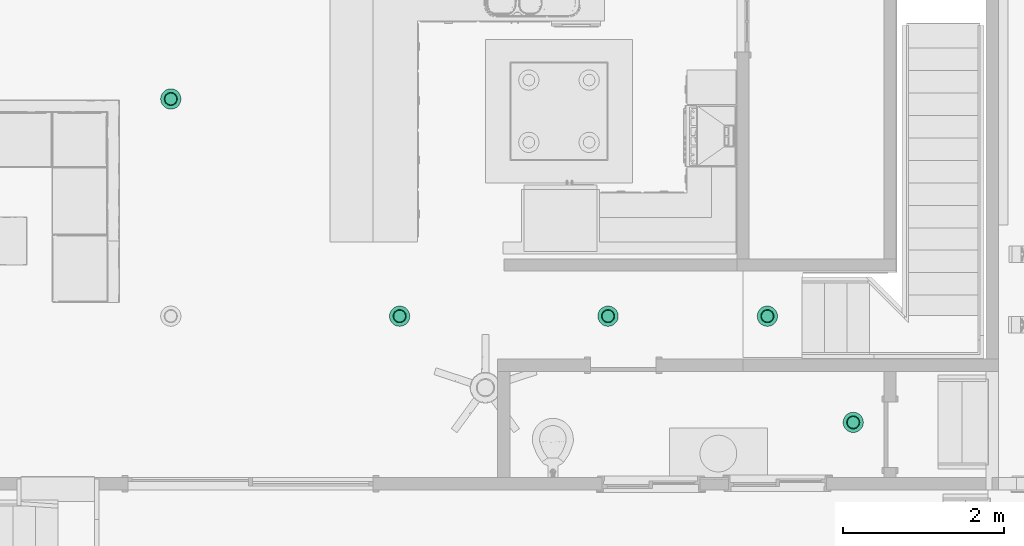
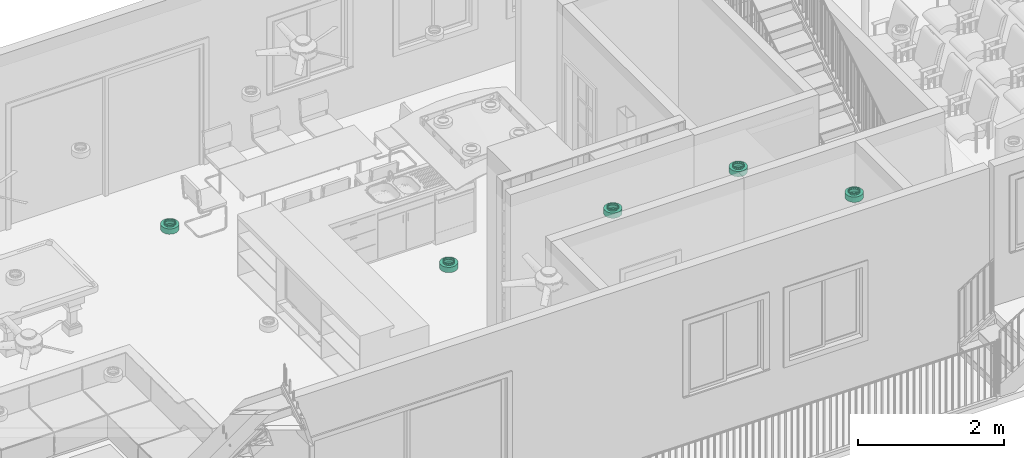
# One storey, part 14 of 21: 5 flow terminals.
"""IFC2X3 building model written with IfcOpenShell, lengths in feet."""

from ifc_helpers import new_model, entity, si_unit, converted_unit, derived_unit, direction, frame, origin, place, context, subcontext, project, spatial, faceted_brep, source, transform, mapped, material, material_list, type_object, type_shapes, element, save


model = new_model("IFC2X3")

# Units and contexts
model_context = context("Model", 3, precision=0.0001, world=origin(), true_north=direction((6.12303176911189e-17, 1.0)))
body_context = subcontext(model_context, "Body", "Model", "MODEL_VIEW")
ifc_project = project(units=[converted_unit("LENGTHUNIT", "FOOT", entity("IfcRatioMeasure", 0.3048), si_unit("LENGTHUNIT", "METRE"), dimensions=[1, 0, 0, 0, 0, 0, 0]), converted_unit("AREAUNIT", "SQUARE FOOT", entity("IfcRatioMeasure", 0.09290304), si_unit("AREAUNIT", "SQUARE_METRE"), dimensions=[2, 0, 0, 0, 0, 0, 0]), converted_unit("VOLUMEUNIT", "CUBIC FOOT", entity("IfcRatioMeasure", 0.028316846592), si_unit("VOLUMEUNIT", "CUBIC_METRE"), dimensions=[3, 0, 0, 0, 0, 0, 0]), converted_unit("PLANEANGLEUNIT", "DEGREE", entity("IfcRatioMeasure", 0.0174532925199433), si_unit("PLANEANGLEUNIT", "RADIAN"), dimensions=[0, 0, 0, 0, 0, 0, 0]), si_unit("MASSUNIT", "GRAM", prefix="KILO"), derived_unit("MASSDENSITYUNIT", [(si_unit("MASSUNIT", "GRAM", prefix="KILO"), 1), (si_unit("LENGTHUNIT", "METRE"), -3)]), si_unit("TIMEUNIT", "SECOND"), si_unit("FREQUENCYUNIT", "HERTZ"), si_unit("THERMODYNAMICTEMPERATUREUNIT", "DEGREE_CELSIUS"), derived_unit("THERMALTRANSMITTANCEUNIT", [(si_unit("MASSUNIT", "GRAM", prefix="KILO"), 1), (si_unit("THERMODYNAMICTEMPERATUREUNIT", "KELVIN"), -1), (si_unit("TIMEUNIT", "SECOND"), -3)]), derived_unit("VOLUMETRICFLOWRATEUNIT", [(si_unit("LENGTHUNIT", "METRE"), 3), (si_unit("TIMEUNIT", "SECOND"), -1)]), si_unit("ELECTRICCURRENTUNIT", "AMPERE"), si_unit("ELECTRICVOLTAGEUNIT", "VOLT"), si_unit("POWERUNIT", "WATT"), si_unit("FORCEUNIT", "NEWTON"), si_unit("ILLUMINANCEUNIT", "LUX"), si_unit("LUMINOUSFLUXUNIT", "LUMEN"), si_unit("LUMINOUSINTENSITYUNIT", "CANDELA"), derived_unit("USERDEFINED", [(si_unit("MASSUNIT", "GRAM", prefix="KILO"), -1), (si_unit("LENGTHUNIT", "METRE"), -2), (si_unit("TIMEUNIT", "SECOND"), 3), (si_unit("LUMINOUSFLUXUNIT", "LUMEN"), 1)]), derived_unit("LINEARVELOCITYUNIT", [(si_unit("LENGTHUNIT", "METRE"), 1), (si_unit("TIMEUNIT", "SECOND"), -1)]), si_unit("PRESSUREUNIT", "PASCAL"), derived_unit("USERDEFINED", [(si_unit("LENGTHUNIT", "METRE"), -2), (si_unit("MASSUNIT", "GRAM", prefix="KILO"), 1), (si_unit("TIMEUNIT", "SECOND"), -2)])], contexts=[model_context])

# Site, building, storey
site_placement = place(None, origin())
site = spatial("IfcSite", under=ifc_project, at=site_placement, Name="表面", CompositionType="ELEMENT")
building_placement = place(site_placement, origin())
building = spatial("IfcBuilding", under=site, at=building_placement, CompositionType="ELEMENT")
storey_placement = place(building_placement, origin())
storey = spatial("IfcBuildingStorey", under=building, at=storey_placement, Name="Level 1", CompositionType="ELEMENT", Elevation=0.0)

# Flow terminals
ifc_material_1 = material(Name="Metal - Paint Finish - Dark Gray, Matte")
ifc_material_2 = material(Name="Glass - White, High Luminance")
ifc_material_list_1 = material_list([ifc_material_1, ifc_material_2])
ifc_material_list_2 = material_list([ifc_material_1, ifc_material_2])
light_fixture_type = type_object("IfcLightFixtureType", Name="100W - 120V", PredefinedType="NOTDEFINED", material=ifc_material_list_2)
shared_shape = source(origin(), body_context, "Body", "Brep", [
    faceted_brep([(0.557291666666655, 0.187326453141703, 0.374999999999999), (0.598651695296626, 0.245098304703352, 0.374999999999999), (0.558098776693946, 0.218001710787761, 0.374999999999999), (0.629345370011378, 0.247786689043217, 0.374999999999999), (0.517545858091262, 0.190905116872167, 0.374999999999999), (0.468904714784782, 0.155156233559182, 0.374999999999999), (0.625748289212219, 0.285651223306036, 0.374999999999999), (0.65284488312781, 0.326204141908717, 0.374999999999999), (0.676375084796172, 0.329244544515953, 0.374999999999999), (0.6623599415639, 0.374039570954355, 0.374999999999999), (0.671874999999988, 0.42187499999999, 0.374999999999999), (0.692708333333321, 0.421874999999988, 0.374999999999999), (0.676375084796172, 0.514505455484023, 0.374999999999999), (0.662359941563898, 0.469710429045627, 0.374999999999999), (0.652844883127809, 0.517545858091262, 0.374999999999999), (0.629345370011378, 0.595963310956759, 0.374999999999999), (0.625748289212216, 0.558098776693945, 0.374999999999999), (0.598651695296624, 0.598651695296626, 0.374999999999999), (0.557291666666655, 0.656423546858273, 0.374999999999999), (0.55809877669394, 0.625748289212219, 0.374999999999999), (0.517545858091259, 0.65284488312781, 0.374999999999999), (0.468904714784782, 0.688593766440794, 0.374999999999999), (0.469710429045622, 0.662359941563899, 0.374999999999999), (0.421874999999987, 0.671874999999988, 0.374999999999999), (0.374845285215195, 0.688593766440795, 0.374999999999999), (0.374039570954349, 0.662359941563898, 0.374999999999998), (0.326204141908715, 0.652844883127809, 0.374999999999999), (0.286458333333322, 0.656423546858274, 0.374999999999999), (0.285651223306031, 0.625748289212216, 0.374999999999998), (0.245098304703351, 0.598651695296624, 0.374999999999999), (0.214404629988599, 0.59596331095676, 0.374999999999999), (0.218001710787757, 0.558098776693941, 0.374999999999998), (0.190905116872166, 0.51754585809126, 0.374999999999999), (0.167374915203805, 0.514505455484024, 0.374999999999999), (0.181390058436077, 0.469710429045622, 0.374999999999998), (0.171874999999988, 0.421874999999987, 0.374999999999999), (0.151041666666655, 0.421874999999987, 0.374999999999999), (0.167374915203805, 0.329244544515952, 0.374999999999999), (0.181390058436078, 0.374039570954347, 0.374999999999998), (0.190905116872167, 0.326204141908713, 0.374999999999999), (0.214404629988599, 0.247786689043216, 0.374999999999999), (0.218001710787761, 0.28565122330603, 0.374999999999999), (0.245098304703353, 0.245098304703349, 0.374999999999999), (0.286458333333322, 0.187326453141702, 0.374999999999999), (0.285651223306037, 0.218001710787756, 0.374999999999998), (0.326204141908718, 0.190905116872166, 0.374999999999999), (0.374845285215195, 0.155156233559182, 0.374999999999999), (0.42187499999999, 0.171874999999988, 0.374999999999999), (0.374039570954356, 0.181390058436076, 0.374999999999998), (0.469710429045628, 0.181390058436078, 0.374999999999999), (0.557291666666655, 0.656423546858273, 0.291666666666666), (0.598651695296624, 0.598651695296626, 0.291666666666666), (0.55809877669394, 0.625748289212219, 0.291666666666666), (0.629345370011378, 0.595963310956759, 0.291666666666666), (0.517545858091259, 0.65284488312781, 0.291666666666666), (0.468904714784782, 0.688593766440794, 0.291666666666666), (0.625748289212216, 0.558098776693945, 0.291666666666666), (0.652844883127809, 0.517545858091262, 0.291666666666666), (0.676375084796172, 0.514505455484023, 0.291666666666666), (0.662359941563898, 0.469710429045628, 0.291666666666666), (0.671874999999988, 0.42187499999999, 0.291666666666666), (0.692708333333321, 0.421874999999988, 0.291666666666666), (0.676375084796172, 0.329244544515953, 0.291666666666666), (0.659760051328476, 0.36096904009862, 0.291666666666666), (0.65284488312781, 0.326204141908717, 0.291666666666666), (0.629345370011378, 0.247786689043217, 0.291666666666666), (0.625748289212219, 0.285651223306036, 0.291666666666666), (0.598651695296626, 0.245098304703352, 0.291666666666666), (0.557291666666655, 0.187326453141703, 0.291666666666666), (0.558098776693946, 0.218001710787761, 0.291666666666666), (0.517545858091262, 0.190905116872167, 0.291666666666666), (0.468904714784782, 0.155156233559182, 0.291666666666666), (0.469710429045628, 0.181390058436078, 0.291666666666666), (0.42187499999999, 0.171874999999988, 0.291666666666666), (0.374845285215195, 0.155156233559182, 0.291666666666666), (0.374039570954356, 0.181390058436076, 0.291666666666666), (0.326204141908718, 0.190905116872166, 0.291666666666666), (0.286458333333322, 0.187326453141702, 0.291666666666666), (0.285651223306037, 0.218001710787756, 0.291666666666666), (0.245098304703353, 0.245098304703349, 0.291666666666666), (0.214404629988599, 0.247786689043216, 0.291666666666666), (0.218001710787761, 0.28565122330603, 0.291666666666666), (0.190905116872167, 0.326204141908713, 0.291666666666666), (0.167374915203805, 0.329244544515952, 0.291666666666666), (0.181390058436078, 0.374039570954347, 0.291666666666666), (0.171874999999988, 0.421874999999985, 0.291666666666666), (0.151041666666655, 0.421874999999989, 0.291666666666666), (0.167374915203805, 0.514505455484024, 0.291666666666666), (0.183989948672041, 0.482780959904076, 0.291666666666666), (0.190905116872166, 0.51754585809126, 0.291666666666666), (0.214404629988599, 0.59596331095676, 0.291666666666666), (0.218001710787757, 0.558098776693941, 0.291666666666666), (0.245098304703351, 0.598651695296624, 0.291666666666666), (0.286458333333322, 0.656423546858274, 0.291666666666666), (0.285651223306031, 0.625748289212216, 0.291666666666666), (0.326204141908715, 0.652844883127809, 0.291666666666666), (0.374845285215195, 0.688593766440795, 0.291666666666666), (0.421874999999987, 0.671874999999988, 0.291666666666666), (0.374039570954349, 0.662359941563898, 0.291666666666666), (0.469710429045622, 0.662359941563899, 0.291666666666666)], [[[0, 1, 2]], [[1, 0, 3]], [[0, 2, 4]], [[4, 5, 0]], [[3, 6, 1]], [[3, 7, 6]], [[7, 3, 8]], [[8, 9, 7]], [[8, 10, 9]], [[10, 8, 11]], [[10, 11, 12]], [[12, 13, 10]], [[12, 14, 13]], [[15, 14, 12]], [[15, 16, 14]], [[15, 17, 16]], [[18, 17, 15]], [[18, 19, 17]], [[18, 20, 19]], [[21, 20, 18]], [[21, 22, 20]], [[21, 23, 22]], [[24, 23, 21]], [[24, 25, 23]], [[24, 26, 25]], [[27, 26, 24]], [[27, 28, 26]], [[27, 29, 28]], [[29, 27, 30]], [[30, 31, 29]], [[30, 32, 31]], [[32, 30, 33]], [[33, 34, 32]], [[33, 35, 34]], [[36, 35, 33]], [[37, 35, 36]], [[37, 38, 35]], [[37, 39, 38]], [[39, 37, 40]], [[40, 41, 39]], [[40, 42, 41]], [[42, 40, 43]], [[43, 44, 42]], [[43, 45, 44]], [[45, 43, 46]], [[47, 46, 5]], [[46, 47, 48]], [[46, 48, 45]], [[5, 4, 49]], [[5, 49, 47]], [[50, 51, 52]], [[51, 50, 53]], [[50, 52, 54]], [[54, 55, 50]], [[53, 56, 51]], [[53, 57, 56]], [[57, 53, 58]], [[58, 59, 57]], [[58, 60, 59]], [[60, 58, 61]], [[60, 61, 62]], [[62, 63, 60]], [[62, 64, 63]], [[65, 64, 62]], [[65, 66, 64]], [[65, 67, 66]], [[68, 67, 65]], [[68, 69, 67]], [[68, 70, 69]], [[71, 70, 68]], [[71, 72, 70]], [[71, 73, 72]], [[74, 73, 71]], [[74, 75, 73]], [[74, 76, 75]], [[77, 76, 74]], [[77, 78, 76]], [[77, 79, 78]], [[79, 77, 80]], [[80, 81, 79]], [[80, 82, 81]], [[82, 80, 83]], [[83, 84, 82]], [[83, 85, 84]], [[86, 85, 83]], [[87, 85, 86]], [[87, 88, 85]], [[87, 89, 88]], [[89, 87, 90]], [[90, 91, 89]], [[90, 92, 91]], [[92, 90, 93]], [[93, 94, 92]], [[93, 95, 94]], [[95, 93, 96]], [[97, 96, 55]], [[96, 97, 98]], [[96, 98, 95]], [[55, 54, 99]], [[55, 99, 97]], [[37, 36, 86, 83]], [[43, 40, 80, 77]], [[83, 80, 40, 37]], [[77, 74, 46, 43]], [[74, 71, 5, 46]], [[0, 5, 71, 68]], [[8, 3, 65, 62]], [[68, 65, 3, 0]], [[62, 61, 11, 8]], [[12, 11, 61, 58]], [[18, 15, 53, 50]], [[58, 53, 15, 12]], [[50, 55, 21, 18]], [[55, 96, 24, 21]], [[27, 24, 96, 93]], [[87, 33, 30, 90]], [[90, 30, 27, 93]], [[33, 87, 86, 36]], [[34, 35, 85, 88, 89, 32]], [[89, 91, 92, 29, 31, 32]], [[59, 60, 10, 13, 14, 57]], [[92, 94, 95, 26, 28, 29]], [[23, 25, 26, 95, 98, 97]], [[97, 99, 54, 20, 22, 23]], [[16, 17, 51, 56, 57, 14]], [[54, 52, 51, 17, 19, 20]], [[9, 10, 60, 63, 64, 7]], [[64, 66, 67, 1, 6, 7]], [[84, 85, 35, 38, 39, 82]], [[67, 69, 70, 4, 2, 1]], [[47, 49, 4, 70, 72, 73]], [[73, 75, 76, 45, 48, 47]], [[41, 42, 79, 81, 82, 39]], [[76, 78, 79, 42, 44, 45]]]),
    faceted_brep([(0.671874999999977, 0.421874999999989, 0.291666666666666), (0.838541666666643, 0.421874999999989, 0.291666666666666), (0.81814854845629, 0.550632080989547, 0.291666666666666), (0.818148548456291, 0.293117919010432, 0.291666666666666), (0.659760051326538, 0.360969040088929, 0.291666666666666), (0.662359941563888, 0.469710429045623, 0.291666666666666), (0.6528448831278, 0.326204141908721, 0.291666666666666), (0.758965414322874, 0.176964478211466, 0.291666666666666), (0.625748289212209, 0.28565122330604, 0.291666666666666), (0.598651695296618, 0.24509830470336, 0.291666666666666), (0.666785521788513, 0.084784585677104, 0.291666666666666), (0.558098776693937, 0.218001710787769, 0.291666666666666), (0.517545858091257, 0.190905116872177, 0.291666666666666), (0.550632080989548, 0.025601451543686, 0.291666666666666), (0.469710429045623, 0.181390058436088, 0.291666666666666), (0.421874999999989, 0.171874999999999, 0.291666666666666), (0.42187499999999, 0.00520833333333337, 0.291666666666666), (0.293117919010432, 0.0256014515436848, 0.291666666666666), (0.374039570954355, 0.181390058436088, 0.291666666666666), (0.326204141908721, 0.190905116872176, 0.291666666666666), (0.176964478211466, 0.0847845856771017, 0.291666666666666), (0.285651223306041, 0.218001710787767, 0.291666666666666), (0.24509830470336, 0.245098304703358, 0.291666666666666), (0.0847845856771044, 0.176964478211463, 0.291666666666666), (0.218001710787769, 0.285651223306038, 0.291666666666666), (0.190905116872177, 0.326204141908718, 0.291666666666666), (0.0256014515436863, 0.293117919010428, 0.291666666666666), (0.181390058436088, 0.374039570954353, 0.291666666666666), (0.171874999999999, 0.421874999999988, 0.291666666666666), (0.00520833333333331, 0.421874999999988, 0.291666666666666), (0.0256014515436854, 0.550632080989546, 0.291666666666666), (0.183989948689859, 0.482780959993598, 0.291666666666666), (0.190905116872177, 0.517545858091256, 0.291666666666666), (0.0847845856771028, 0.666785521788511, 0.291666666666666), (0.218001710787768, 0.558098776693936, 0.291666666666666), (0.245098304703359, 0.598651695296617, 0.291666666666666), (0.176964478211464, 0.758965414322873, 0.291666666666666), (0.285651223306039, 0.625748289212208, 0.291666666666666), (0.32620414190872, 0.652844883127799, 0.291666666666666), (0.29311791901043, 0.81814854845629, 0.291666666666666), (0.374039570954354, 0.662359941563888, 0.291666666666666), (0.421874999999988, 0.671874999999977, 0.291666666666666), (0.421874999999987, 0.838541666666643, 0.291666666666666), (0.550632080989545, 0.818148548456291, 0.291666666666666), (0.469710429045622, 0.662359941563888, 0.291666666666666), (0.517545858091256, 0.6528448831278, 0.291666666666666), (0.666785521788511, 0.758965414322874, 0.291666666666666), (0.558098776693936, 0.625748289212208, 0.291666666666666), (0.598651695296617, 0.598651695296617, 0.291666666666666), (0.758965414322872, 0.666785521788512, 0.291666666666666), (0.625748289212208, 0.558098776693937, 0.291666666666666), (0.652844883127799, 0.517545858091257, 0.291666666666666), (0.0256014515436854, 0.550632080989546, 0.0), (0.00520833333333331, 0.421874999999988, 0.0), (0.0847845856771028, 0.666785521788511, 0.0), (0.176964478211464, 0.758965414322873, 0.0), (0.29311791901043, 0.818148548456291, 0.0), (0.421874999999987, 0.838541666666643, 0.0), (0.550632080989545, 0.818148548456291, 0.0), (0.666785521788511, 0.758965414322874, 0.0), (0.758965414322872, 0.666785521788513, 0.0), (0.81814854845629, 0.550632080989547, 0.0), (0.838541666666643, 0.42187499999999, 0.0), (0.818148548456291, 0.293117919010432, 0.0), (0.666785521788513, 0.0847845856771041, 0.0), (0.550632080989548, 0.025601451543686, 0.0), (0.42187499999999, 0.00520833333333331, 0.0), (0.758965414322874, 0.176964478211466, 0.0), (0.293117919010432, 0.0256014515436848, 0.0), (0.176964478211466, 0.0847845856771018, 0.0), (0.0847845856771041, 0.176964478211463, 0.0), (0.025601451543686, 0.293117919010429, 0.0), (0.421874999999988, 0.421874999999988, 0.0), (0.808241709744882, 0.547413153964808, 0.0104166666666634), (0.421874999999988, 0.421874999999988, 0.0104166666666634), (0.828124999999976, 0.421874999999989, 0.0104166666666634), (0.7505381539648, 0.660662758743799, 0.0104166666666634), (0.660662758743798, 0.750538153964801, 0.0104166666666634), (0.547413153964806, 0.808241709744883, 0.0104166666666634), (0.421874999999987, 0.828124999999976, 0.0104166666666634), (0.296336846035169, 0.808241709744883, 0.0104166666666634), (0.183087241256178, 0.750538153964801, 0.0104166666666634), (0.0932118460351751, 0.660662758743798, 0.0104166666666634), (0.0355082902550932, 0.547413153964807, 0.0104166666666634), (0.0156249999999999, 0.421874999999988, 0.0104166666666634), (0.0355082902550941, 0.296336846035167, 0.0104166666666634), (0.0932118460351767, 0.183087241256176, 0.0104166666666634), (0.18308724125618, 0.093211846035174, 0.0104166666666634), (0.296336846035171, 0.0355082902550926, 0.0104166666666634), (0.42187499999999, 0.0156249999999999, 0.0104166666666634), (0.547413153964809, 0.0355082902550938, 0.0104166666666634), (0.6606627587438, 0.0932118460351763, 0.0104166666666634), (0.750538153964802, 0.183087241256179, 0.0104166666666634), (0.808241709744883, 0.296336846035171, 0.0104166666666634), (0.0355082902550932, 0.547413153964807, 0.281249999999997), (0.0156249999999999, 0.421874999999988, 0.281249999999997), (0.0932118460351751, 0.660662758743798, 0.281249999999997), (0.183087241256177, 0.750538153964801, 0.281249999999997), (0.296336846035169, 0.808241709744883, 0.281249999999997), (0.421874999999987, 0.828124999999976, 0.281249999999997), (0.660662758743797, 0.750538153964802, 0.281249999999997), (0.547413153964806, 0.808241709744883, 0.281249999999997), (0.808241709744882, 0.547413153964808, 0.281249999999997), (0.7505381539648, 0.660662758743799, 0.281249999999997), (0.828124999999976, 0.42187499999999, 0.281249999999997), (0.808241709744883, 0.296336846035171, 0.281249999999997), (0.547413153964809, 0.0355082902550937, 0.281249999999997), (0.6606627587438, 0.0932118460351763, 0.281249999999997), (0.42187499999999, 0.0156249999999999, 0.281249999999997), (0.750538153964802, 0.183087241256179, 0.281249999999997), (0.183087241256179, 0.0932118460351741, 0.281249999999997), (0.296336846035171, 0.0355082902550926, 0.281249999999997), (0.0355082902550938, 0.296336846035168, 0.281249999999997), (0.0932118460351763, 0.183087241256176, 0.281249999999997), (0.66145833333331, 0.421874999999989, 0.281249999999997), (0.650878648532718, 0.475062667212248, 0.281249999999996), (0.643221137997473, 0.513559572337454, 0.281249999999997), (0.650878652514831, 0.368687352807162, 0.281249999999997), (0.643221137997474, 0.330190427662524, 0.281249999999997), (0.617253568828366, 0.291327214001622, 0.281249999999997), (0.591285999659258, 0.25246400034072, 0.281249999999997), (0.552422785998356, 0.226496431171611, 0.281249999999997), (0.513559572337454, 0.200528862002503, 0.281249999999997), (0.467717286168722, 0.191410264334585, 0.281249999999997), (0.421874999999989, 0.182291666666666, 0.281249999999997), (0.376032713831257, 0.191410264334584, 0.281249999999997), (0.330190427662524, 0.200528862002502, 0.281249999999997), (0.291327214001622, 0.22649643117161, 0.281249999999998), (0.25246400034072, 0.252464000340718, 0.281249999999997), (0.226496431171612, 0.29132721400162, 0.281249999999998), (0.200528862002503, 0.330190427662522, 0.281249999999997), (0.191410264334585, 0.376032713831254, 0.281249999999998), (0.182291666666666, 0.421874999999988, 0.281249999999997), (0.192871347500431, 0.47506264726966, 0.281249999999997), (0.200528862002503, 0.513559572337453, 0.281249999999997), (0.226496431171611, 0.552422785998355, 0.281249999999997), (0.252464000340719, 0.591285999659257, 0.281249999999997), (0.291327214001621, 0.617253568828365, 0.281249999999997), (0.330190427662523, 0.643221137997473, 0.281249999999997), (0.376032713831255, 0.652339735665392, 0.281249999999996), (0.421874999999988, 0.66145833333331, 0.281249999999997), (0.46771728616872, 0.652339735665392, 0.281249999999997), (0.513559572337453, 0.643221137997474, 0.281249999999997), (0.591285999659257, 0.591285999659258, 0.281249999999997), (0.552422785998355, 0.617253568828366, 0.281249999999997), (0.617253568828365, 0.552422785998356, 0.281249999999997), (0.191410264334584, 0.467717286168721, 0.375), (0.182291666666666, 0.421874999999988, 0.375), (0.200528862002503, 0.513559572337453, 0.375), (0.252464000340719, 0.591285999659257, 0.375), (0.226496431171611, 0.552422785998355, 0.375), (0.330190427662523, 0.643221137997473, 0.375), (0.291327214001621, 0.617253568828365, 0.375), (0.421874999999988, 0.66145833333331, 0.375), (0.376032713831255, 0.652339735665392, 0.375), (0.552422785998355, 0.617253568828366, 0.375), (0.513559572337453, 0.643221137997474, 0.375), (0.591285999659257, 0.591285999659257, 0.375), (0.643221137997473, 0.513559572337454, 0.375), (0.617253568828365, 0.552422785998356, 0.375), (0.46771728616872, 0.652339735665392, 0.375), (0.652339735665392, 0.467717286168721, 0.375), (0.66145833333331, 0.421874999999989, 0.375), (0.652339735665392, 0.376032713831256, 0.375), (0.643221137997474, 0.330190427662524, 0.375), (0.591285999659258, 0.25246400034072, 0.375), (0.617253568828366, 0.291327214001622, 0.375), (0.513559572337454, 0.200528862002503, 0.375), (0.552422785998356, 0.226496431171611, 0.375), (0.421874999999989, 0.182291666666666, 0.375), (0.467717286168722, 0.191410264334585, 0.375), (0.200528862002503, 0.330190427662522, 0.375), (0.192871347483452, 0.368687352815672, 0.375), (0.25246400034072, 0.252464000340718, 0.375), (0.291327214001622, 0.22649643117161, 0.375), (0.330190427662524, 0.200528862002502, 0.375), (0.226496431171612, 0.29132721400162, 0.375), (0.376032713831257, 0.191410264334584, 0.375), (0.671874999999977, 0.421874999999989, 0.375), (0.659760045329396, 0.482780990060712, 0.375), (0.652844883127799, 0.517545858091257, 0.375), (0.662359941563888, 0.374039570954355, 0.375), (0.6528448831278, 0.326204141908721, 0.375), (0.625748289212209, 0.28565122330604, 0.375), (0.598651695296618, 0.24509830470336, 0.375), (0.558098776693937, 0.218001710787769, 0.375), (0.517545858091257, 0.190905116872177, 0.375), (0.469710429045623, 0.181390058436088, 0.375), (0.421874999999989, 0.171874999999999, 0.375), (0.374039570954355, 0.181390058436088, 0.375), (0.326204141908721, 0.190905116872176, 0.375), (0.285651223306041, 0.218001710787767, 0.375), (0.24509830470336, 0.245098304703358, 0.375), (0.218001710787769, 0.285651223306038, 0.375), (0.190905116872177, 0.326204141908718, 0.375), (0.183989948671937, 0.360969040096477, 0.375), (0.171874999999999, 0.421874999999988, 0.375), (0.181390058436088, 0.469710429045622, 0.375), (0.190905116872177, 0.517545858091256, 0.375), (0.218001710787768, 0.558098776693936, 0.375), (0.245098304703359, 0.598651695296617, 0.375), (0.285651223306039, 0.625748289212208, 0.375), (0.32620414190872, 0.652844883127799, 0.375), (0.374039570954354, 0.662359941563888, 0.375), (0.421874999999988, 0.671874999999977, 0.375), (0.469710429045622, 0.662359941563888, 0.375), (0.517545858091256, 0.6528448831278, 0.375), (0.558098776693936, 0.625748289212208, 0.375), (0.598651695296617, 0.598651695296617, 0.375), (0.625748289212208, 0.558098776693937, 0.375)], [[[0, 1, 2]], [[0, 3, 1]], [[3, 0, 4]], [[2, 5, 0]], [[3, 4, 6]], [[7, 3, 6]], [[7, 6, 8]], [[7, 8, 9]], [[10, 7, 9]], [[10, 9, 11]], [[10, 11, 12]], [[10, 12, 13]], [[13, 12, 14]], [[13, 14, 15]], [[16, 13, 15]], [[16, 15, 17]], [[17, 15, 18]], [[17, 18, 19]], [[17, 19, 20]], [[20, 19, 21]], [[20, 21, 22]], [[23, 20, 22]], [[23, 22, 24]], [[23, 24, 25]], [[25, 26, 23]], [[26, 25, 27]], [[26, 27, 28]], [[29, 26, 28]], [[30, 29, 28]], [[30, 28, 31]], [[30, 31, 32]], [[30, 32, 33]], [[33, 32, 34]], [[33, 34, 35]], [[36, 33, 35]], [[36, 35, 37]], [[36, 37, 38]], [[39, 36, 38]], [[39, 38, 40]], [[39, 40, 41]], [[42, 39, 41]], [[42, 41, 43]], [[43, 41, 44]], [[43, 44, 45]], [[46, 43, 45]], [[46, 45, 47]], [[46, 47, 48]], [[46, 48, 49]], [[49, 48, 50]], [[49, 50, 51]], [[49, 51, 2]], [[2, 51, 5]], [[52, 53, 29, 30]], [[30, 33, 54, 52]], [[36, 55, 54, 33]], [[55, 36, 39, 56]], [[56, 39, 42, 57]], [[58, 43, 46, 59]], [[60, 49, 2, 61]], [[46, 49, 60, 59]], [[61, 2, 1, 62]], [[43, 58, 57, 42]], [[1, 3, 63, 62]], [[64, 10, 13, 65]], [[16, 66, 65, 13]], [[63, 3, 7, 67]], [[10, 64, 67, 7]], [[68, 17, 20, 69]], [[70, 23, 26, 71]], [[20, 23, 70, 69]], [[71, 26, 29, 53]], [[17, 68, 66, 16]], [[62, 72, 61]], [[62, 63, 72]], [[72, 63, 67]], [[72, 67, 64]], [[72, 64, 65]], [[65, 66, 72]], [[68, 72, 66]], [[72, 68, 69]], [[72, 69, 70]], [[71, 72, 70]], [[72, 71, 53]], [[72, 53, 52]], [[72, 52, 54]], [[54, 55, 72]], [[72, 55, 56]], [[56, 57, 72]], [[72, 57, 58]], [[59, 72, 58]], [[72, 59, 60]], [[61, 72, 60]], [[73, 74, 75]], [[76, 74, 73]], [[76, 77, 74]], [[78, 74, 77]], [[78, 79, 74]], [[74, 79, 80]], [[80, 81, 74]], [[74, 81, 82]], [[82, 83, 74]], [[83, 84, 74]], [[84, 85, 74]], [[86, 74, 85]], [[86, 87, 74]], [[87, 88, 74]], [[89, 74, 88]], [[74, 89, 90]], [[90, 91, 74]], [[91, 92, 74]], [[92, 93, 74]], [[74, 93, 75]], [[94, 95, 84, 83]], [[82, 96, 94, 83]], [[96, 82, 81, 97]], [[81, 80, 98, 97]], [[98, 80, 79, 99]], [[100, 101, 78, 77]], [[102, 103, 76, 73]], [[77, 76, 103, 100]], [[104, 102, 73, 75]], [[79, 78, 101, 99]], [[105, 104, 75, 93]], [[106, 107, 91, 90]], [[108, 106, 90, 89]], [[93, 92, 109, 105]], [[109, 92, 91, 107]], [[110, 111, 88, 87]], [[112, 113, 86, 85]], [[87, 86, 113, 110]], [[95, 112, 85, 84]], [[89, 88, 111, 108]], [[102, 104, 114]], [[102, 114, 115]], [[102, 115, 116]], [[102, 116, 103]], [[104, 105, 114]], [[105, 117, 114]], [[105, 118, 117]], [[118, 105, 109]], [[109, 119, 118]], [[109, 120, 119]], [[120, 109, 107]], [[107, 121, 120]], [[107, 122, 121]], [[106, 122, 107]], [[106, 123, 122]], [[106, 124, 123]], [[124, 106, 108]], [[111, 124, 108]], [[111, 125, 124]], [[111, 126, 125]], [[110, 126, 111]], [[110, 127, 126]], [[110, 128, 127]], [[128, 110, 113]], [[113, 129, 128]], [[113, 130, 129]], [[113, 112, 130]], [[112, 131, 130]], [[112, 132, 131]], [[132, 112, 95]], [[132, 95, 94]], [[94, 133, 132]], [[94, 134, 133]], [[96, 134, 94]], [[96, 135, 134]], [[96, 136, 135]], [[136, 96, 97]], [[97, 137, 136]], [[97, 138, 137]], [[138, 97, 98]], [[98, 139, 138]], [[98, 140, 139]], [[140, 98, 99]], [[101, 140, 99]], [[101, 141, 140]], [[101, 142, 141]], [[142, 101, 100]], [[103, 143, 100]], [[100, 143, 144]], [[100, 144, 142]], [[103, 116, 145]], [[103, 145, 143]], [[146, 147, 132, 133, 134, 148]], [[136, 149, 150, 148, 134, 135]], [[136, 137, 138, 151, 152, 149]], [[151, 138, 139, 140, 153, 154]], [[155, 156, 142, 144, 143, 157]], [[116, 158, 159, 157, 143, 145]], [[153, 140, 141, 142, 156, 160]], [[161, 158, 116, 115, 114, 162]], [[163, 162, 114, 117, 118, 164]], [[120, 165, 166, 164, 118, 119]], [[120, 121, 122, 167, 168, 165]], [[123, 124, 169, 170, 167, 122]], [[171, 130, 131, 132, 147, 172]], [[128, 173, 174, 175, 126, 127]], [[128, 129, 130, 171, 176, 173]], [[175, 177, 169, 124, 125, 126]], [[162, 178, 179]], [[162, 179, 180]], [[180, 161, 162]], [[162, 181, 178]], [[162, 182, 181]], [[182, 162, 163]], [[182, 163, 164]], [[164, 183, 182]], [[164, 184, 183]], [[184, 164, 166]], [[184, 166, 165]], [[165, 185, 184]], [[165, 186, 185]], [[186, 165, 168]], [[186, 168, 167]], [[167, 187, 186]], [[167, 188, 187]], [[188, 167, 170]], [[188, 170, 169]], [[188, 169, 177]], [[188, 177, 175]], [[175, 189, 188]], [[175, 190, 189]], [[190, 175, 174]], [[190, 174, 173]], [[173, 191, 190]], [[173, 192, 191]], [[192, 173, 176]], [[192, 176, 171]], [[171, 193, 192]], [[171, 194, 193]], [[194, 171, 172]], [[194, 172, 147]], [[147, 195, 194]], [[147, 196, 195]], [[147, 197, 196]], [[147, 198, 197]], [[198, 147, 146]], [[198, 146, 148]], [[148, 199, 198]], [[148, 200, 199]], [[200, 148, 150]], [[200, 150, 149]], [[149, 201, 200]], [[149, 202, 201]], [[202, 149, 152]], [[202, 152, 151]], [[151, 203, 202]], [[151, 204, 203]], [[204, 151, 154]], [[204, 154, 153]], [[204, 153, 160]], [[204, 160, 156]], [[156, 205, 204]], [[156, 206, 205]], [[206, 156, 155]], [[206, 155, 157]], [[157, 207, 206]], [[157, 208, 207]], [[208, 157, 159]], [[208, 159, 158]], [[158, 180, 209]], [[180, 158, 161]], [[158, 209, 208]], [[198, 32, 31, 28, 196, 197]], [[199, 200, 35, 34, 32, 198]], [[200, 201, 202, 38, 37, 35]], [[40, 38, 202, 203, 204, 41]], [[47, 45, 206, 207, 208, 48]], [[178, 0, 5, 51, 180, 179]], [[208, 209, 180, 51, 50, 48]], [[45, 44, 41, 204, 205, 206]], [[182, 6, 4, 0, 178, 181]], [[183, 184, 9, 8, 6, 182]], [[184, 185, 186, 12, 11, 9]], [[187, 188, 15, 14, 12, 186]], [[195, 196, 28, 27, 25, 194]], [[191, 192, 22, 21, 19, 190]], [[192, 193, 194, 25, 24, 22]], [[19, 18, 15, 188, 189, 190]]]),
])
type_shapes(light_fixture_type, [shared_shape])
flow_terminal_1_placement = place(storey_placement, frame((6.37654524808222, -6.73948130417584, 8.625)))
element("IfcFlowTerminal", 1, at=flow_terminal_1_placement, inside=storey, type_object=light_fixture_type, material=ifc_material_list_1, Name="Ceiling Light - Flat Round:100W - 120V", ObjectType="100W - 120V", context=body_context, shape_type="MappedRepresentation", body=[
    mapped(shared_shape, transform((0.0, 0.0, 0.0), scale=1.0)),
])
ifc_material_list_3 = material_list([ifc_material_1, ifc_material_2])
flow_terminal_2_placement = place(storey_placement, frame((-0.123454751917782, -6.73948130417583, 8.625)))
element("IfcFlowTerminal", 2, at=flow_terminal_2_placement, inside=storey, type_object=light_fixture_type, material=ifc_material_list_3, Name="Ceiling Light - Flat Round:100W - 120V", ObjectType="100W - 120V", context=body_context, shape_type="MappedRepresentation", body=[
    mapped(shared_shape, transform((0.0, 0.0, 0.0), scale=1.0)),
])
ifc_material_list_4 = material_list([ifc_material_1, ifc_material_2])
flow_terminal_3_placement = place(storey_placement, frame((-8.62345475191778, -6.73948130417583, 8.625)))
element("IfcFlowTerminal", 3, at=flow_terminal_3_placement, inside=storey, type_object=light_fixture_type, material=ifc_material_list_4, Name="Ceiling Light - Flat Round:100W - 120V", ObjectType="100W - 120V", context=body_context, shape_type="MappedRepresentation", body=[
    mapped(shared_shape, transform((0.0, 0.0, 0.0), scale=1.0)),
])
ifc_material_list_5 = material_list([ifc_material_1, ifc_material_2])
flow_terminal_4_placement = place(storey_placement, frame((-17.9567880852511, 2.11856459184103, 8.625)))
element("IfcFlowTerminal", 4, at=flow_terminal_4_placement, inside=storey, type_object=light_fixture_type, material=ifc_material_list_5, Name="Ceiling Light - Flat Round:100W - 120V", ObjectType="100W - 120V", context=body_context, shape_type="MappedRepresentation", body=[
    mapped(shared_shape, transform((0.0, 0.0, 0.0), scale=1.0)),
])
ifc_material_list_6 = material_list([ifc_material_1, ifc_material_2])
flow_terminal_5_placement = place(storey_placement, frame((9.87654524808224, -11.0728146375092, 8.625)))
element("IfcFlowTerminal", 5, at=flow_terminal_5_placement, inside=storey, type_object=light_fixture_type, material=ifc_material_list_6, Name="Ceiling Light - Flat Round:100W - 120V", ObjectType="100W - 120V", context=body_context, shape_type="MappedRepresentation", body=[
    mapped(shared_shape, transform((0.0, 0.0, 0.0), scale=1.0)),
])

save(model, "model.ifc")
